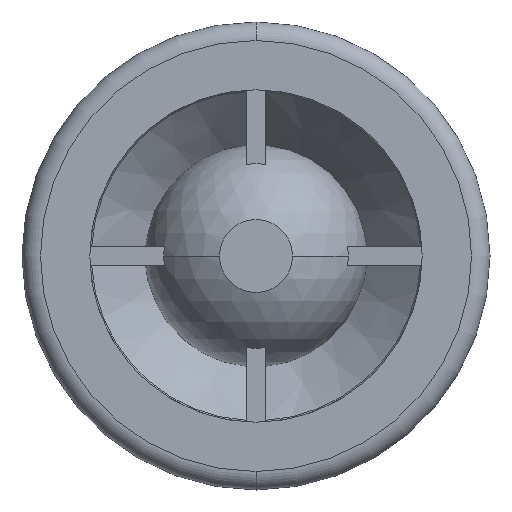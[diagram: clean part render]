
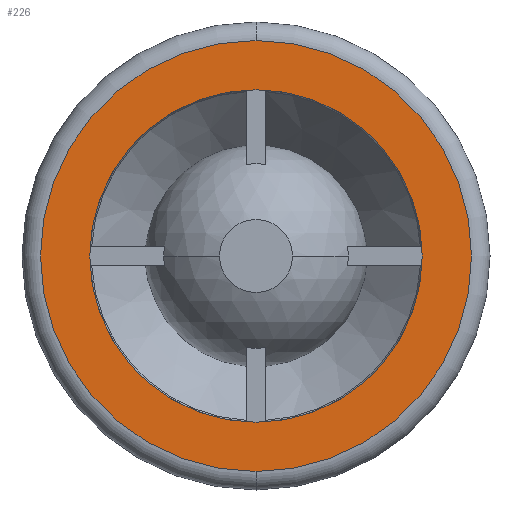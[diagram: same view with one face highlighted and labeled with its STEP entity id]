
A CAD part, front view. The second image highlights one B-rep face of the part: STEP entity #226.
In plain terms, the highlighted planar face has unit normal (0, -1, 0).
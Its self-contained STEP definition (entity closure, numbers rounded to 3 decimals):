
#59 = EDGE_CURVE ( 'NONE', #278, #275, #945, .T. ) ;
#226 = ADVANCED_FACE ( 'NONE', ( #2669, #2744 ), #2742, .F. ) ;
#227 = ORIENTED_EDGE ( 'NONE', *, *, #228, .T. ) ;
#228 = EDGE_CURVE ( 'NONE', #331, #328, #2756, .T. ) ;
#229 = ORIENTED_EDGE ( 'NONE', *, *, #330, .T. ) ;
#230 = EDGE_LOOP ( 'NONE', ( #441, #442 ) ) ;
#275 = VERTEX_POINT ( 'NONE', #2710 ) ;
#277 = EDGE_CURVE ( 'NONE', #275, #278, #2709, .T. ) ;
#278 = VERTEX_POINT ( 'NONE', #2704 ) ;
#328 = VERTEX_POINT ( 'NONE', #1393 ) ;
#330 = EDGE_CURVE ( 'NONE', #328, #331, #1389, .T. ) ;
#331 = VERTEX_POINT ( 'NONE', #1384 ) ;
#441 = ORIENTED_EDGE ( 'NONE', *, *, #59, .F. ) ;
#442 = ORIENTED_EDGE ( 'NONE', *, *, #277, .F. ) ;
#644 = EDGE_LOOP ( 'NONE', ( #227, #229 ) ) ;
#941 = DIRECTION ( 'NONE',  ( 0., 0., -1. ) ) ;
#942 = DIRECTION ( 'NONE',  ( 0., -1., 0. ) ) ;
#943 = CARTESIAN_POINT ( 'NONE',  ( 0., 0., 0. ) ) ;
#944 = AXIS2_PLACEMENT_3D ( 'NONE', #943, #942, #941 ) ;
#945 = CIRCLE ( 'NONE', #944, 13.5 ) ;
#1384 = CARTESIAN_POINT ( 'NONE',  ( 0., 0., 17.5 ) ) ;
#1385 = DIRECTION ( 'NONE',  ( 0., 0., 1. ) ) ;
#1386 = DIRECTION ( 'NONE',  ( 0., -1., 0. ) ) ;
#1387 = CARTESIAN_POINT ( 'NONE',  ( 0., 0., 0. ) ) ;
#1388 = AXIS2_PLACEMENT_3D ( 'NONE', #1387, #1386, #1385 ) ;
#1389 = CIRCLE ( 'NONE', #1388, 17.5 ) ;
#1393 = CARTESIAN_POINT ( 'NONE',  ( 0., 0., -17.5 ) ) ;
#2669 = FACE_OUTER_BOUND ( 'NONE', #644, .T. ) ;
#2704 = CARTESIAN_POINT ( 'NONE',  ( 0., 0., -13.5 ) ) ;
#2705 = DIRECTION ( 'NONE',  ( 0., 0., -1. ) ) ;
#2706 = DIRECTION ( 'NONE',  ( 0., -1., 0. ) ) ;
#2707 = CARTESIAN_POINT ( 'NONE',  ( 0., 0., 0. ) ) ;
#2708 = AXIS2_PLACEMENT_3D ( 'NONE', #2707, #2706, #2705 ) ;
#2709 = CIRCLE ( 'NONE', #2708, 13.5 ) ;
#2710 = CARTESIAN_POINT ( 'NONE',  ( 0., 0., 13.5 ) ) ;
#2742 = PLANE ( 'NONE',  #2743 ) ;
#2743 = AXIS2_PLACEMENT_3D ( 'NONE', #2760, #2759, #2758 ) ;
#2744 = FACE_BOUND ( 'NONE', #230, .T. ) ;
#2753 = DIRECTION ( 'NONE',  ( 0., -1., 0. ) ) ;
#2754 = CARTESIAN_POINT ( 'NONE',  ( 0., 0., 0. ) ) ;
#2755 = AXIS2_PLACEMENT_3D ( 'NONE', #2754, #2753, #2791 ) ;
#2756 = CIRCLE ( 'NONE', #2755, 17.5 ) ;
#2758 = DIRECTION ( 'NONE',  ( 0., 0., 1. ) ) ;
#2759 = DIRECTION ( 'NONE',  ( 0., 1., 0. ) ) ;
#2760 = CARTESIAN_POINT ( 'NONE',  ( -13.5, 0., 0. ) ) ;
#2791 = DIRECTION ( 'NONE',  ( 0., 0., 1. ) ) ;
